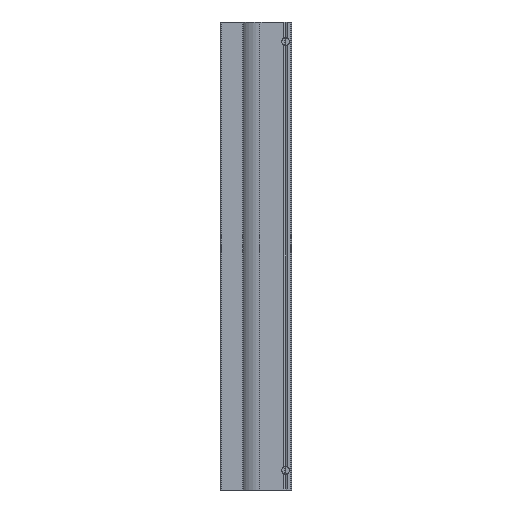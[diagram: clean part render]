
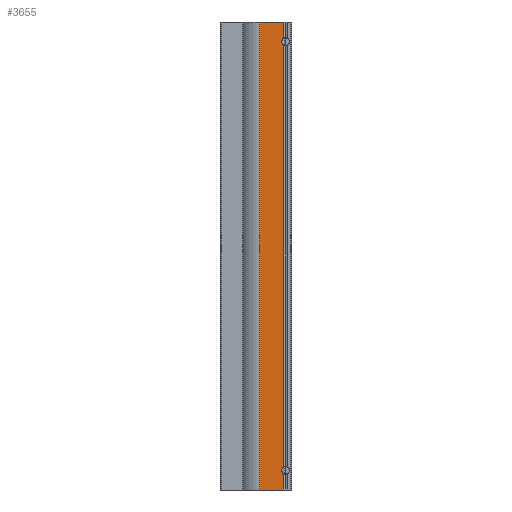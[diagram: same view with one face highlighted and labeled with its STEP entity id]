
A CAD part, left-side view. The second image highlights one B-rep face of the part: STEP entity #3655.
In plain terms, the highlighted planar face has unit normal (-1, 0, 0).
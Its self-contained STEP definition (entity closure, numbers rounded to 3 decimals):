
#60=LINE('',#5684,#252);
#61=LINE('',#5686,#253);
#62=LINE('',#5688,#254);
#63=LINE('',#5690,#255);
#64=LINE('',#5691,#256);
#65=LINE('',#5692,#257);
#252=VECTOR('',#4494,8.197);
#253=VECTOR('',#4495,12.134);
#254=VECTOR('',#4496,237.);
#255=VECTOR('',#4497,12.134);
#256=VECTOR('',#4498,8.197);
#257=VECTOR('',#4499,213.394);
#427=PLANE('',#3933);
#806=FACE_OUTER_BOUND('',#1046,.T.);
#1046=EDGE_LOOP('',(#2637,#2638,#2639,#2640,#2641,#2642,#2643,#2644));
#1473=CIRCLE('',#3895,2.);
#1480=CIRCLE('',#3912,2.);
#1701=VERTEX_POINT('',#5548);
#1705=VERTEX_POINT('',#5556);
#1717=VERTEX_POINT('',#5591);
#1721=VERTEX_POINT('',#5599);
#1747=VERTEX_POINT('',#5683);
#1748=VERTEX_POINT('',#5685);
#1749=VERTEX_POINT('',#5687);
#1750=VERTEX_POINT('',#5689);
#2082=EDGE_CURVE('',#1701,#1705,#1473,.T.);
#2098=EDGE_CURVE('',#1717,#1721,#1480,.T.);
#2135=EDGE_CURVE('',#1705,#1747,#60,.T.);
#2136=EDGE_CURVE('',#1747,#1748,#61,.T.);
#2137=EDGE_CURVE('',#1749,#1748,#62,.T.);
#2138=EDGE_CURVE('',#1749,#1750,#63,.T.);
#2139=EDGE_CURVE('',#1750,#1717,#64,.T.);
#2140=EDGE_CURVE('',#1721,#1701,#65,.T.);
#2637=ORIENTED_EDGE('',*,*,#2082,.T.);
#2638=ORIENTED_EDGE('',*,*,#2135,.T.);
#2639=ORIENTED_EDGE('',*,*,#2136,.T.);
#2640=ORIENTED_EDGE('',*,*,#2137,.F.);
#2641=ORIENTED_EDGE('',*,*,#2138,.T.);
#2642=ORIENTED_EDGE('',*,*,#2139,.T.);
#2643=ORIENTED_EDGE('',*,*,#2098,.T.);
#2644=ORIENTED_EDGE('',*,*,#2140,.T.);
#3655=ADVANCED_FACE('',(#806),#427,.T.);
#3895=AXIS2_PLACEMENT_3D('',#5558,#4391,#4392);
#3912=AXIS2_PLACEMENT_3D('',#5601,#4425,#4426);
#3933=AXIS2_PLACEMENT_3D('',#5682,#4492,#4493);
#4391=DIRECTION('center_axis',(1.,0.,0.));
#4392=DIRECTION('ref_axis',(0.,0.,1.));
#4425=DIRECTION('center_axis',(1.,0.,0.));
#4426=DIRECTION('ref_axis',(0.,0.,1.));
#4492=DIRECTION('center_axis',(-1.,0.,0.));
#4493=DIRECTION('ref_axis',(0.,0.,1.));
#4494=DIRECTION('',(0.,0.,1.));
#4495=DIRECTION('',(0.,1.,0.));
#4496=DIRECTION('',(0.,0.,1.));
#4497=DIRECTION('',(0.,-1.,0.));
#4498=DIRECTION('',(0.,0.,1.));
#4499=DIRECTION('',(0.,0.,1.));
#5548=CARTESIAN_POINT('',(-36.,3.866,106.697));
#5556=CARTESIAN_POINT('',(-36.,3.866,110.303));
#5558=CARTESIAN_POINT('Origin',(-36.,3.,108.5));
#5591=CARTESIAN_POINT('',(-36.,3.866,-110.303));
#5599=CARTESIAN_POINT('',(-36.,3.866,-106.697));
#5601=CARTESIAN_POINT('Origin',(-36.,3.,-108.5));
#5682=CARTESIAN_POINT('Origin',(-36.,3.866,0.));
#5683=CARTESIAN_POINT('',(-36.,3.866,118.5));
#5684=CARTESIAN_POINT('',(-36.,3.866,0.));
#5685=CARTESIAN_POINT('',(-36.,16.,118.5));
#5686=CARTESIAN_POINT('',(-36.,16.,118.5));
#5687=CARTESIAN_POINT('',(-36.,16.,-118.5));
#5688=CARTESIAN_POINT('',(-36.,16.,0.));
#5689=CARTESIAN_POINT('',(-36.,3.866,-118.5));
#5690=CARTESIAN_POINT('',(-36.,16.,-118.5));
#5691=CARTESIAN_POINT('',(-36.,3.866,0.));
#5692=CARTESIAN_POINT('',(-36.,3.866,0.));
